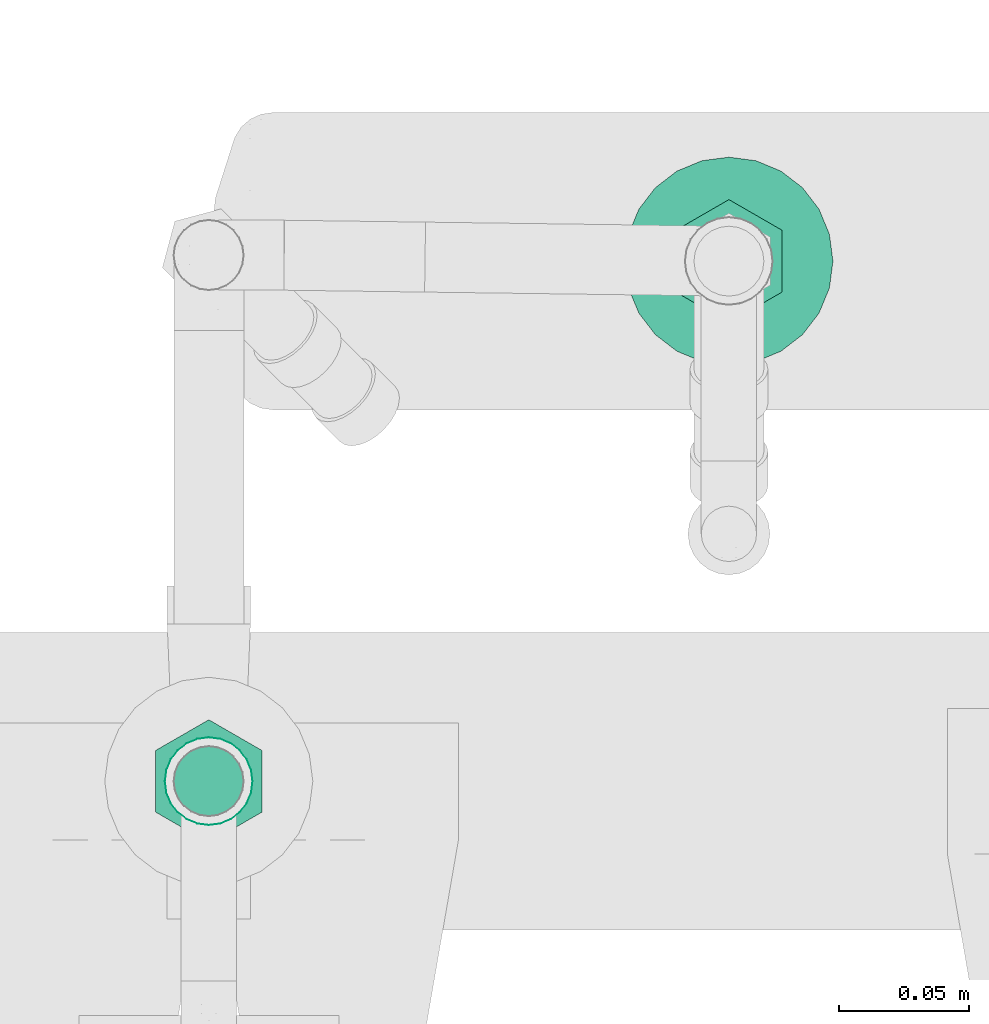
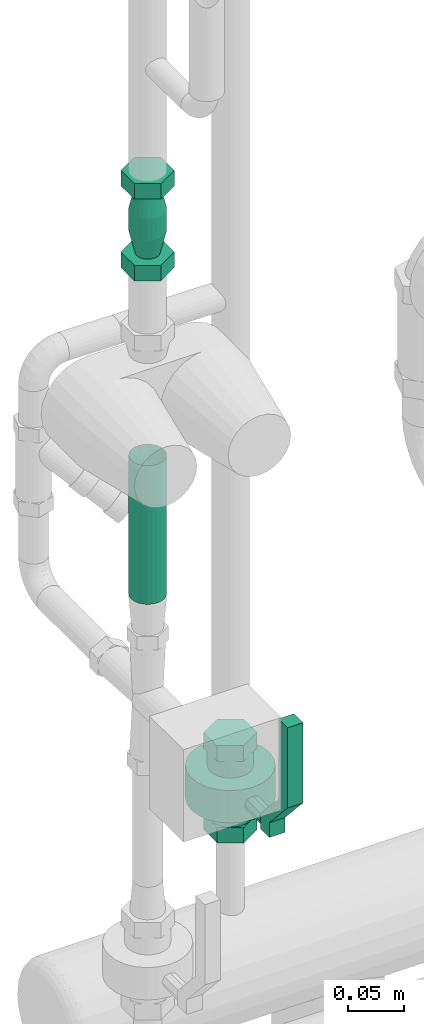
# One storey, part 83 of 374: 2 flow controllers, 1 flow segment.
"""IFC2X3 building model written with IfcOpenShell, lengths in metres."""

from ifc_helpers import new_model, si_unit, direction, origin, place, context, subcontext, project, spatial, open_shell, surface_model, source, transform, mapped, element, save


model = new_model("IFC2X3")

# Units and contexts
model_context = context("Model", 3, precision=1e-05, world=origin(), true_north=direction((-0.4480736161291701, 0.8939966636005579)))
body_context = subcontext(model_context, "Body", "Model", "MODEL_VIEW")
ifc_project = project(units=[si_unit("LENGTHUNIT", "METRE"), si_unit("AREAUNIT", "SQUARE_METRE"), si_unit("VOLUMEUNIT", "CUBIC_METRE"), si_unit("PLANEANGLEUNIT", "RADIAN"), si_unit("THERMODYNAMICTEMPERATUREUNIT", "KELVIN"), si_unit("MASSUNIT", "GRAM", prefix="KILO"), si_unit("TIMEUNIT", "SECOND")], contexts=[model_context])

# Site, building, storey
site_placement = place(None, origin())
site = spatial("IfcSite", under=ifc_project, at=site_placement, Name="Site 1", CompositionType="ELEMENT")
building_placement = place(site_placement, origin())
building = spatial("IfcBuilding", under=site, at=building_placement, Name="Undefined", CompositionType="ELEMENT")
storey_placement = place(building_placement, origin())
storey = spatial("IfcBuildingStorey", under=building, at=storey_placement, Name="Rez de chauss\x8ee", CompositionType="ELEMENT", Elevation=0.0)

# Flow controller
shared_shape_1 = source(origin(), body_context, "Body", "SurfaceModel", [
    surface_model("IfcFaceBasedSurfaceModel", [(0.0, 0.0, 0.0), (0.016000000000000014, 0.0, 0.0), (0.016000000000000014, 0.015999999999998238, 0.0), (0.0, 0.015999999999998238, 0.0), (0.016000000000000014, 0.0, 0.016000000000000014), (0.016000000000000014, 0.015999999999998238, 0.016000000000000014), (0.0, 0.0, 0.016000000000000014), (0.0, 0.015999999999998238, 0.016000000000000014), (-0.03533333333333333, 0.0, 0.04800000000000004), (-0.03533333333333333, 0.015999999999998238, 0.04800000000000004), (-0.122, 0.0, 0.04800000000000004), (-0.122, 0.015999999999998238, 0.04800000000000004), (-0.122, 0.0, 0.03200000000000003), (-0.122, 0.015999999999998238, 0.03200000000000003), (-0.03533333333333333, 0.0, 0.03200000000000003), (-0.03533333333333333, 0.015999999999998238, 0.03200000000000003), (0.060500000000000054, 0.02850000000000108, -0.0788356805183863), (0.060500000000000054, 0.02850000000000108, -0.05516431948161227), (0.04370000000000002, 0.02850000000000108, -0.05516431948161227), (0.04370000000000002, 0.02850000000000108, -0.0788356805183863), (0.060500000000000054, 0.008000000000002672, -0.0906713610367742), (0.04370000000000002, 0.008000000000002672, -0.0906713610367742), (0.060500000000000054, -0.012500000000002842, -0.0788356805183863), (0.04370000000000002, -0.012500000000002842, -0.0788356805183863), (0.060500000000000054, -0.012500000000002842, -0.05516431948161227), (0.04370000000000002, -0.012500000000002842, -0.05516431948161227), (0.060500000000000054, 0.008000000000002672, -0.043328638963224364), (0.04370000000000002, 0.008000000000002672, -0.043328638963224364), (0.04370000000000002, -0.012500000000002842, -0.06700000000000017), (0.04370000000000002, -0.011801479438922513, -0.06169420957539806), (0.025500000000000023, -0.011801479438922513, -0.06169420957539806), (0.025500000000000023, -0.012500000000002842, -0.06700000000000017), (0.04370000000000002, -0.009753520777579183, -0.05674999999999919), (0.025500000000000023, -0.009753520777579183, -0.05674999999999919), (0.04370000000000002, -0.006495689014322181, -0.05250431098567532), (0.025500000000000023, -0.006495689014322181, -0.05250431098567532), (0.04370000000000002, -0.002250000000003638, -0.049246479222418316), (0.025500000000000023, -0.002250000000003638, -0.049246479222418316), (0.04370000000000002, 0.0026942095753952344, -0.04719852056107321), (0.025500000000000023, 0.0026942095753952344, -0.04719852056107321), (0.04370000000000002, 0.008000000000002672, -0.046499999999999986), (0.025500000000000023, 0.008000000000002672, -0.046499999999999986), (0.04370000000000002, 0.013305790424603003, -0.04719852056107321), (0.025500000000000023, 0.013305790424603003, -0.04719852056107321), (0.04370000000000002, 0.018250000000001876, -0.049246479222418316), (0.025500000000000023, 0.018250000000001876, -0.049246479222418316), (0.04370000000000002, 0.02249568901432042, -0.05250431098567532), (0.025500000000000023, 0.02249568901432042, -0.05250431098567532), (0.04370000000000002, 0.02575352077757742, -0.05674999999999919), (0.025500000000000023, 0.02575352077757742, -0.05674999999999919), (0.04370000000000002, 0.02780147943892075, -0.06169420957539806), (0.025500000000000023, 0.02780147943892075, -0.06169420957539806), (0.04370000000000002, 0.02850000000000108, -0.06700000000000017), (0.025500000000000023, 0.02850000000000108, -0.06700000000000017), (0.04370000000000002, 0.02780147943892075, -0.0723057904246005), (0.025500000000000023, 0.02780147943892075, -0.0723057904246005), (0.04370000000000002, 0.02575352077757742, -0.07724999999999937), (0.025500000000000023, 0.02575352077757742, -0.07724999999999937), (0.04370000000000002, 0.02249568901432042, -0.08149568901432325), (0.025500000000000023, 0.02249568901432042, -0.08149568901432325), (0.04370000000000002, 0.018250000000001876, -0.08475352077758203), (0.025500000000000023, 0.018250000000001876, -0.08475352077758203), (0.04370000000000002, 0.013305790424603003, -0.08680147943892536), (0.025500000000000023, 0.013305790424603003, -0.08680147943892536), (0.04370000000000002, 0.008000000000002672, -0.08749999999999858), (0.025500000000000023, 0.008000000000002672, -0.08749999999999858), (0.04370000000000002, 0.0026942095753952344, -0.08680147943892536), (0.025500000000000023, 0.0026942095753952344, -0.08680147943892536), (0.04370000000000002, -0.002250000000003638, -0.08475352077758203), (0.025500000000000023, -0.002250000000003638, -0.08475352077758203), (0.04370000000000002, -0.006495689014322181, -0.08149568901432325), (0.025500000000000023, -0.006495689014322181, -0.08149568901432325), (0.04370000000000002, -0.009753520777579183, -0.07724999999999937), (0.025500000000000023, -0.009753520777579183, -0.07724999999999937), (0.04370000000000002, -0.011801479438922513, -0.0723057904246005), (0.025500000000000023, -0.011801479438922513, -0.0723057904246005), (0.025500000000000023, -0.03200000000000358, -0.06700000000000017), (0.025500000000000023, -0.030637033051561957, -0.05664723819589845), (-0.009499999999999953, -0.030637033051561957, -0.05664723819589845), (-0.009499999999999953, -0.03200000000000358, -0.06700000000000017), (0.025500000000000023, -0.02664101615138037, -0.04699999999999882), (-0.009499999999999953, -0.02664101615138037, -0.04699999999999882), (0.025500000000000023, -0.020284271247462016, -0.03871572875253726), (-0.009499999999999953, -0.020284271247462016, -0.03871572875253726), (0.025500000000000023, -0.012000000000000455, -0.03235898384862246), (-0.009499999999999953, -0.012000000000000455, -0.03235898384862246), (0.025500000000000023, -0.002352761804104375, -0.028362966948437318), (-0.009499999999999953, -0.002352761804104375, -0.028362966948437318), (0.025500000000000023, 0.008000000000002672, -0.026999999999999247), (-0.009499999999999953, 0.008000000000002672, -0.026999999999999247), (0.025500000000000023, 0.018352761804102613, -0.028362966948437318), (-0.009499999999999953, 0.018352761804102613, -0.028362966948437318), (0.025500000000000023, 0.027999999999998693, -0.03235898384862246), (-0.009499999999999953, 0.027999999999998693, -0.03235898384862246), (0.025500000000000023, 0.036284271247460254, -0.03871572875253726), (-0.009499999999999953, 0.036284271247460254, -0.03871572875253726), (0.025500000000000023, 0.04264101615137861, -0.04699999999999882), (-0.009499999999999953, 0.04264101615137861, -0.04699999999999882), (0.025500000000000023, 0.046637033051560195, -0.05664723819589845), (-0.009499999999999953, 0.046637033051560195, -0.05664723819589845), (0.025500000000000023, 0.04800000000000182, -0.06700000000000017), (-0.009499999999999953, 0.04800000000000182, -0.06700000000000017), (0.025500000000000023, 0.046637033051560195, -0.07735276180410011), (-0.009499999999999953, 0.046637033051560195, -0.07735276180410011), (0.025500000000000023, 0.04264101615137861, -0.08699999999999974), (-0.009499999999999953, 0.04264101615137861, -0.08699999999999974), (0.025500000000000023, 0.036284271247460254, -0.0952842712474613), (-0.009499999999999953, 0.036284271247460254, -0.0952842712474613), (0.025500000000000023, 0.027999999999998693, -0.10164101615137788), (-0.009499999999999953, 0.027999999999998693, -0.10164101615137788), (0.025500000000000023, 0.018352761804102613, -0.10563703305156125), (-0.009499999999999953, 0.018352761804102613, -0.10563703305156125), (0.025500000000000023, 0.008000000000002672, -0.10699999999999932), (-0.009499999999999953, 0.008000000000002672, -0.10699999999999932), (0.025500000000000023, -0.002352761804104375, -0.10563703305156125), (-0.009499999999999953, -0.002352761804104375, -0.10563703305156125), (0.025500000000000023, -0.012000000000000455, -0.10164101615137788), (-0.009499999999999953, -0.012000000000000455, -0.10164101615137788), (0.025500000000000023, -0.020284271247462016, -0.0952842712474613), (-0.009499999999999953, -0.020284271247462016, -0.0952842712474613), (0.025500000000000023, -0.02664101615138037, -0.08699999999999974), (-0.009499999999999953, -0.02664101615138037, -0.08699999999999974), (0.025500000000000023, -0.030637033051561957, -0.07735276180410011), (-0.009499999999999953, -0.030637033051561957, -0.07735276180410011), (0.025500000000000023, 0.008000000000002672, -0.06700000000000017), (-0.009499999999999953, 0.008000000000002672, -0.06700000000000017), (-0.009499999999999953, -0.012500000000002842, -0.06700000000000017), (-0.009499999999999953, -0.011801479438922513, -0.06169420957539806), (-0.027699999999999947, -0.011801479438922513, -0.06169420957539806), (-0.027699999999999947, -0.012500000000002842, -0.06700000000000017), (-0.009499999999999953, -0.009753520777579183, -0.05674999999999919), (-0.027699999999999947, -0.009753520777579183, -0.05674999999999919), (-0.009499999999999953, -0.006495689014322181, -0.05250431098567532), (-0.027699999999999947, -0.006495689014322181, -0.05250431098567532), (-0.009499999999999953, -0.002250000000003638, -0.049246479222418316), (-0.027699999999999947, -0.002250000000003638, -0.049246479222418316), (-0.009499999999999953, 0.0026942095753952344, -0.04719852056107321), (-0.027699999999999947, 0.0026942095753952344, -0.04719852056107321), (-0.009499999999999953, 0.008000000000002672, -0.046499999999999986), (-0.027699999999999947, 0.008000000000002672, -0.046499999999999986), (-0.009499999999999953, 0.013305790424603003, -0.04719852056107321), (-0.027699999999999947, 0.013305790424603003, -0.04719852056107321), (-0.009499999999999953, 0.018250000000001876, -0.049246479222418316), (-0.027699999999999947, 0.018250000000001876, -0.049246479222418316), (-0.009499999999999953, 0.02249568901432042, -0.05250431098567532), (-0.027699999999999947, 0.02249568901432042, -0.05250431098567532), (-0.009499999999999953, 0.02575352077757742, -0.05674999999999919), (-0.027699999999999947, 0.02575352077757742, -0.05674999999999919), (-0.009499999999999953, 0.02780147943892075, -0.06169420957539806), (-0.027699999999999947, 0.02780147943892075, -0.06169420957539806), (-0.009499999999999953, 0.02850000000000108, -0.06700000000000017), (-0.027699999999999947, 0.02850000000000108, -0.06700000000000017), (-0.009499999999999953, 0.02780147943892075, -0.0723057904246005), (-0.027699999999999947, 0.02780147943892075, -0.0723057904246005), (-0.009499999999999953, 0.02575352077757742, -0.07724999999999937), (-0.027699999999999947, 0.02575352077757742, -0.07724999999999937), (-0.009499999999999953, 0.02249568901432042, -0.08149568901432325), (-0.027699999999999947, 0.02249568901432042, -0.08149568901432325), (-0.009499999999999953, 0.018250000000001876, -0.08475352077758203), (-0.027699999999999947, 0.018250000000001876, -0.08475352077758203), (-0.009499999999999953, 0.013305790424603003, -0.08680147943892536), (-0.027699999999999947, 0.013305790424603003, -0.08680147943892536), (-0.009499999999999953, 0.008000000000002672, -0.08749999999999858), (-0.027699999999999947, 0.008000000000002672, -0.08749999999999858), (-0.009499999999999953, 0.0026942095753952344, -0.08680147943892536), (-0.027699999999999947, 0.0026942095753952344, -0.08680147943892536), (-0.009499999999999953, -0.002250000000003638, -0.08475352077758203), (-0.027699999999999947, -0.002250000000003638, -0.08475352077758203), (-0.009499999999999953, -0.006495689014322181, -0.08149568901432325), (-0.027699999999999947, -0.006495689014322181, -0.08149568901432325), (-0.009499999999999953, -0.009753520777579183, -0.07724999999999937), (-0.027699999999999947, -0.009753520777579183, -0.07724999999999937), (-0.009499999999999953, -0.011801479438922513, -0.0723057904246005), (-0.027699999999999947, -0.011801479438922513, -0.0723057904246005), (-0.027699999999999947, 0.02850000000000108, -0.0788356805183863), (-0.027699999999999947, 0.02850000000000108, -0.05516431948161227), (-0.04449999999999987, 0.02850000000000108, -0.05516431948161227), (-0.04449999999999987, 0.02850000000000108, -0.0788356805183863), (-0.027699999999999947, 0.008000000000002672, -0.0906713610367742), (-0.04449999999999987, 0.008000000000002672, -0.0906713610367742), (-0.027699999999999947, -0.012500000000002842, -0.0788356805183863), (-0.04449999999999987, -0.012500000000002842, -0.0788356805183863), (-0.027699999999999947, -0.012500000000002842, -0.05516431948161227), (-0.04449999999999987, -0.012500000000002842, -0.05516431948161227), (-0.027699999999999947, 0.008000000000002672, -0.043328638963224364), (-0.04449999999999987, 0.008000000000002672, -0.043328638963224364), (0.0, 0.008000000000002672, -0.06700000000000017), (0.002343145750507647, 0.002343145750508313, -0.06700000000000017), (0.002343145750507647, 0.002343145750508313, 0.0), (0.0, 0.008, 0.0), (0.008000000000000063, 0.0, -0.06700000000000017), (0.008000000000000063, 0.0, 0.0), (0.013656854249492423, 0.002343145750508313, -0.06700000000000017), (0.013656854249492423, 0.002343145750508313, 0.0), (0.016000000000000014, 0.008000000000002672, -0.06700000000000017), (0.016000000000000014, 0.008000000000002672, 0.0), (0.013656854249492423, 0.013656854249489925, -0.06700000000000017), (0.013656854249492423, 0.013656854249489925, 0.0), (0.008000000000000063, 0.015999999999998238, -0.06700000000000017), (0.008000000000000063, 0.015999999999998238, 0.0), (0.002343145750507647, 0.013656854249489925, -0.06700000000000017), (0.002343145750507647, 0.013656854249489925, 0.0)], [open_shell([[[0, 1, 2, 3]], [[1, 4, 5, 2]], [[4, 6, 7, 5]], [[6, 8, 9, 7]], [[8, 10, 11, 9]], [[10, 12, 13, 11]], [[12, 14, 15, 13]], [[14, 0, 3, 15]], [[3, 7, 2]], [[7, 3, 9]], [[15, 9, 3]], [[9, 15, 11]], [[13, 11, 15]], [[5, 2, 7]], [[1, 6, 0]], [[8, 0, 6]], [[0, 8, 14]], [[10, 14, 8]], [[14, 10, 12]], [[6, 1, 4]], [[16, 17, 18, 19]], [[20, 16, 19, 21]], [[22, 20, 21, 23]], [[24, 22, 23, 25]], [[26, 24, 25, 27]], [[17, 26, 27, 18]], [[17, 16, 20]], [[17, 20, 22]], [[17, 22, 24]], [[17, 24, 26]], [[18, 21, 19]], [[18, 23, 21]], [[18, 25, 23]], [[18, 27, 25]], [[28, 29, 30, 31]], [[29, 32, 33, 30]], [[32, 34, 35, 33]], [[34, 36, 37, 35]], [[36, 38, 39, 37]], [[38, 40, 41, 39]], [[40, 42, 43, 41]], [[42, 44, 45, 43]], [[44, 46, 47, 45]], [[46, 48, 49, 47]], [[48, 50, 51, 49]], [[50, 52, 53, 51]], [[52, 54, 55, 53]], [[54, 56, 57, 55]], [[56, 58, 59, 57]], [[58, 60, 61, 59]], [[60, 62, 63, 61]], [[62, 64, 65, 63]], [[64, 66, 67, 65]], [[66, 68, 69, 67]], [[68, 70, 71, 69]], [[70, 72, 73, 71]], [[72, 74, 75, 73]], [[74, 28, 31, 75]], [[76, 77, 78, 79]], [[77, 80, 81, 78]], [[80, 82, 83, 81]], [[82, 84, 85, 83]], [[84, 86, 87, 85]], [[86, 88, 89, 87]], [[88, 90, 91, 89]], [[90, 92, 93, 91]], [[92, 94, 95, 93]], [[94, 96, 97, 95]], [[96, 98, 99, 97]], [[98, 100, 101, 99]], [[100, 102, 103, 101]], [[102, 104, 105, 103]], [[104, 106, 107, 105]], [[106, 108, 109, 107]], [[108, 110, 111, 109]], [[110, 112, 113, 111]], [[112, 114, 115, 113]], [[114, 116, 117, 115]], [[116, 118, 119, 117]], [[118, 120, 121, 119]], [[120, 122, 123, 121]], [[122, 76, 79, 123]], [[124, 77, 76]], [[124, 80, 77]], [[124, 82, 80]], [[124, 84, 82]], [[124, 86, 84]], [[124, 88, 86]], [[124, 90, 88]], [[124, 92, 90]], [[124, 94, 92]], [[124, 96, 94]], [[124, 98, 96]], [[124, 100, 98]], [[124, 102, 100]], [[124, 104, 102]], [[124, 106, 104]], [[124, 108, 106]], [[124, 110, 108]], [[124, 112, 110]], [[124, 114, 112]], [[124, 116, 114]], [[124, 118, 116]], [[124, 120, 118]], [[124, 122, 120]], [[124, 76, 122]], [[125, 123, 79]], [[125, 121, 123]], [[125, 119, 121]], [[125, 117, 119]], [[125, 115, 117]], [[125, 113, 115]], [[125, 111, 113]], [[125, 109, 111]], [[125, 107, 109]], [[125, 105, 107]], [[125, 103, 105]], [[125, 101, 103]], [[125, 99, 101]], [[125, 97, 99]], [[125, 95, 97]], [[125, 93, 95]], [[125, 91, 93]], [[125, 89, 91]], [[125, 87, 89]], [[125, 85, 87]], [[125, 83, 85]], [[125, 81, 83]], [[125, 78, 81]], [[125, 79, 78]], [[126, 127, 128, 129]], [[127, 130, 131, 128]], [[130, 132, 133, 131]], [[132, 134, 135, 133]], [[134, 136, 137, 135]], [[136, 138, 139, 137]], [[138, 140, 141, 139]], [[140, 142, 143, 141]], [[142, 144, 145, 143]], [[144, 146, 147, 145]], [[146, 148, 149, 147]], [[148, 150, 151, 149]], [[150, 152, 153, 151]], [[152, 154, 155, 153]], [[154, 156, 157, 155]], [[156, 158, 159, 157]], [[158, 160, 161, 159]], [[160, 162, 163, 161]], [[162, 164, 165, 163]], [[164, 166, 167, 165]], [[166, 168, 169, 167]], [[168, 170, 171, 169]], [[170, 172, 173, 171]], [[172, 126, 129, 173]], [[174, 175, 176, 177]], [[178, 174, 177, 179]], [[180, 178, 179, 181]], [[182, 180, 181, 183]], [[184, 182, 183, 185]], [[175, 184, 185, 176]], [[175, 174, 178]], [[175, 178, 180]], [[175, 180, 182]], [[175, 182, 184]], [[176, 179, 177]], [[176, 181, 179]], [[176, 183, 181]], [[176, 185, 183]], [[186, 187, 188, 189]], [[187, 190, 191, 188]], [[190, 192, 193, 191]], [[192, 194, 195, 193]], [[194, 196, 197, 195]], [[196, 198, 199, 197]], [[198, 200, 201, 199]], [[200, 186, 189, 201]]])]),
])
flow_controller_1_placement = place(storey_placement, origin())
element("IfcFlowController", 1, at=flow_controller_1_placement, inside=storey, Name="Robinet à boisseau sphérique", ObjectType="Robinet à boisseau sphérique", context=body_context, shape_type="MappedRepresentation", body=[
    mapped(shared_shape_1, transform((52.24956201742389, 10.85103704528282, 0.5008500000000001), x_axis=(0.0, 0.0, -1.0), y_axis=(1.0, 0.0, 0.0), z_axis=(0.0, -1.0, 0.0))),
])

# Flow segment
shared_shape_2 = source(origin(), body_context, "Body", "SurfaceModel", [
    surface_model("IfcFaceBasedSurfaceModel", [(0.0, 0.004398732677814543, 0.0), (0.0, 0.0, 0.0), (0.14994874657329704, 0.0, 7.105427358e-15), (0.14994874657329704, 0.004398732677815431, 0.0), (0.0, -0.004248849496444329, -0.00113847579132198), (0.14994874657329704, -0.004248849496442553, -0.0011384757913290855), (0.0, -0.008058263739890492, -0.003337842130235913), (0.14994874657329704, -0.008058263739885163, -0.0033378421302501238), (0.0, -0.01116863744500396, -0.0064482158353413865), (0.14994874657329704, -0.011168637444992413, -0.006448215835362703), (0.0, -0.013368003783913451, -0.010257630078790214), (0.14994874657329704, -0.013368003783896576, -0.01025763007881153), (0.0, -0.014506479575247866, -0.014506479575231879), (0.14994874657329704, -0.014506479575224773, -0.0145064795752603), (0.0, -0.01450647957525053, -0.01890521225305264), (0.14994874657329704, -0.014506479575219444, -0.018905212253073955), (0.0, -0.013368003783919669, -0.023154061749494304), (0.14994874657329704, -0.013368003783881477, -0.023154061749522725), (0.0, -0.011168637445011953, -0.02696347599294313), (0.14994874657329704, -0.011168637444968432, -0.026963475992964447), (0.0, -0.008058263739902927, -0.03007384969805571), (0.14994874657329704, -0.008058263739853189, -0.030073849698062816), (0.0, -0.004248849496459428, -0.03227321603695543), (0.14994874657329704, -0.004248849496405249, -0.03227321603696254), (0.0, -1.5099033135e-14, -0.03341169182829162), (0.14994874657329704, 4.0856207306e-14, -0.03341169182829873), (0.0, 0.00439873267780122, -0.03341169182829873), (0.14994874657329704, 0.004398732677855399, -0.03341169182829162), (0.0, 0.008647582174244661, -0.03227321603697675), (0.14994874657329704, 0.008647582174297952, -0.03227321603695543), (0.0, 0.012456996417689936, -0.030073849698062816), (0.14994874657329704, 0.012456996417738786, -0.0300738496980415), (0.0, 0.01556737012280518, -0.026963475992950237), (0.14994874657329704, 0.015567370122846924, -0.026963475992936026), (0.0, 0.017766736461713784, -0.023154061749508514), (0.14994874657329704, 0.017766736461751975, -0.023154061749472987), (0.0, 0.018905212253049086, -0.01890521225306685), (0.14994874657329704, 0.018905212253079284, -0.018905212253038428), (0.0, 0.018905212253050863, -0.01450647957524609), (0.14994874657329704, 0.018905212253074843, -0.014506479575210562), (0.0, 0.01776673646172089, -0.01025763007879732), (0.14994874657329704, 0.017766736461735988, -0.010257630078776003), (0.0, 0.015567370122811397, -0.006448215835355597), (0.14994874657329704, 0.015567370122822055, -0.006448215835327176), (0.0, 0.012456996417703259, -0.0033378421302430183), (0.14994874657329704, 0.012456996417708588, -0.003337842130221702), (0.0, 0.00864758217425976, -0.0011384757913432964), (0.14994874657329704, 0.008647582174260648, -0.00113847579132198)], [open_shell([[[0, 1, 2, 3]], [[1, 4, 5, 2]], [[4, 6, 7, 5]], [[6, 8, 9, 7]], [[8, 10, 11, 9]], [[10, 12, 13, 11]], [[12, 14, 15, 13]], [[14, 16, 17, 15]], [[16, 18, 19, 17]], [[18, 20, 21, 19]], [[20, 22, 23, 21]], [[22, 24, 25, 23]], [[24, 26, 27, 25]], [[26, 28, 29, 27]], [[28, 30, 31, 29]], [[30, 32, 33, 31]], [[32, 34, 35, 33]], [[34, 36, 37, 35]], [[36, 38, 39, 37]], [[38, 40, 41, 39]], [[40, 42, 43, 41]], [[42, 44, 45, 43]], [[44, 46, 47, 45]], [[46, 0, 3, 47]]])]),
])
flow_segment_placement = place(storey_placement, origin())
element("IfcFlowSegment", 2, at=flow_segment_placement, inside=storey, Name="Tube acier d'après DIN 2448", ObjectType="Tube acier d'après DIN 2448", context=body_context, shape_type="MappedRepresentation", body=[
    mapped(shared_shape_2, transform((52.04128616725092, 10.713675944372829, 0.8868512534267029), x_axis=(0.0, 0.0, 1.0), y_axis=(-0.13052619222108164, 0.9914448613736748, 0.0), z_axis=(-0.9914448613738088, -0.13052619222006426, 0.0))),
])

# Flow controller
shared_shape_3 = source(origin(), body_context, "Body", "SurfaceModel", [
    surface_model("IfcFaceBasedSurfaceModel", [(0.0, 0.0, 0.0), (0.02367136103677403, 0.0, 0.0), (0.02367136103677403, 0.016799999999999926, 0.0), (0.0, 0.016799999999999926, 0.0), (-0.011835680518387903, 0.0, 0.02049999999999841), (-0.011835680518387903, 0.016799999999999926, 0.02049999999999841), (0.0, 0.0, 0.04100000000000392), (0.0, 0.016799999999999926, 0.04100000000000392), (0.02367136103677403, 0.0, 0.04100000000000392), (0.02367136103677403, 0.016799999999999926, 0.04100000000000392), (0.03550704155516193, 0.0, 0.02049999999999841), (0.03550704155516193, 0.016799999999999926, 0.02049999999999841), (0.0006023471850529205, 0.016799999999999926, 0.02049999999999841), (0.0009851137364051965, 0.016799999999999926, 0.023407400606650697), (-0.0044401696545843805, 0.04059999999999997, 0.024861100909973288), (-0.005014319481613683, 0.04059999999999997, 0.020499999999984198), (0.0021073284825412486, 0.016799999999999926, 0.026116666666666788), (-0.0027568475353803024, 0.04059999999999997, 0.028924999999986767), (0.003892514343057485, 0.016799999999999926, 0.028443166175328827), (-7.906874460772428e-05, 0.04059999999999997, 0.03241474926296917), (0.006219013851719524, 0.016799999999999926, 0.030228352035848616), (0.0034106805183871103, 0.04059999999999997, 0.035092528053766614), (0.008928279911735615, 0.016799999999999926, 0.031350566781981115), (0.007474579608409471, 0.04059999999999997, 0.03677585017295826), (0.011835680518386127, 0.016799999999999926, 0.03173333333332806), (0.011835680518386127, 0.04059999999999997, 0.037349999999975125), (0.014743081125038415, 0.016799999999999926, 0.031350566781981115), (0.01619678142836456, 0.04059999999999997, 0.03677585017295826), (0.017452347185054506, 0.016799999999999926, 0.030228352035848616), (0.02026068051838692, 0.04059999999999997, 0.035092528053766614), (0.019778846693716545, 0.016799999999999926, 0.028443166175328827), (0.023750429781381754, 0.04059999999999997, 0.03241474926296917), (0.02156403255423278, 0.016799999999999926, 0.026116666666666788), (0.026428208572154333, 0.04059999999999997, 0.028924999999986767), (0.022686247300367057, 0.016799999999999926, 0.023407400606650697), (0.02811153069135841, 0.04059999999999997, 0.024861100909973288), (0.02306901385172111, 0.016799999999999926, 0.02049999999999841), (0.028685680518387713, 0.04059999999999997, 0.020499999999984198), (0.022686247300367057, 0.016799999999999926, 0.017592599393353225), (0.02811153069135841, 0.04059999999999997, 0.016138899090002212), (0.02156403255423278, 0.016799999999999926, 0.014883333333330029), (0.026428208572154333, 0.04059999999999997, 0.012074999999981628), (0.019778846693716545, 0.016799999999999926, 0.012556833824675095), (0.023750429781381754, 0.04059999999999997, 0.008585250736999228), (0.017452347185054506, 0.016799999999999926, 0.010771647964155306), (0.02026068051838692, 0.04059999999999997, 0.0059074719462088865), (0.014743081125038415, 0.016799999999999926, 0.009649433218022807), (0.01619678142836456, 0.04059999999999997, 0.004224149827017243), (0.011835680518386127, 0.016799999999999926, 0.009266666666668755), (0.011835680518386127, 0.04059999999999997, 0.0036499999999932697), (0.008928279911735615, 0.016799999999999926, 0.009649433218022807), (0.007474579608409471, 0.04059999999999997, 0.004224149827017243), (0.006219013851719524, 0.016799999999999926, 0.010771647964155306), (0.0034106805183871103, 0.04059999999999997, 0.0059074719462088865), (0.003892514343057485, 0.016799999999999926, 0.012556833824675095), (-7.906874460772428e-05, 0.04059999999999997, 0.008585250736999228), (0.0021073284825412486, 0.016799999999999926, 0.014883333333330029), (-0.0027568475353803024, 0.04059999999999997, 0.012074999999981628), (0.0009851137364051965, 0.016799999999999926, 0.017592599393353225), (-0.0044401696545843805, 0.04059999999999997, 0.016138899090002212), (0.01619678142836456, 0.06440000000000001, 0.03677585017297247), (0.011835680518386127, 0.06440000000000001, 0.03734999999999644), (0.02026068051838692, 0.06440000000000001, 0.03509252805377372), (0.023750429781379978, 0.06440000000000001, 0.03241474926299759), (0.02642820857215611, 0.06440000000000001, 0.028925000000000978), (0.02811153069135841, 0.06440000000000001, 0.024861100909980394), (0.028685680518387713, 0.06440000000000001, 0.02049999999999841), (0.02811153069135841, 0.06440000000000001, 0.01613889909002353), (0.02642820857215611, 0.06440000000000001, 0.012074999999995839), (0.023750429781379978, 0.06440000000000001, 0.008585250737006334), (0.02026068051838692, 0.06440000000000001, 0.005907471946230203), (0.01619678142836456, 0.06440000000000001, 0.004224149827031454), (0.011835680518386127, 0.06440000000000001, 0.003650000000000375), (0.007474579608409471, 0.06440000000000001, 0.004224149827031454), (0.0034106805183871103, 0.06440000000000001, 0.005907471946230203), (-7.906874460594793e-05, 0.06440000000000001, 0.008585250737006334), (-0.0027568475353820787, 0.06440000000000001, 0.012074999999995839), (-0.0044401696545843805, 0.06440000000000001, 0.01613889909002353), (-0.005014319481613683, 0.06440000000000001, 0.02049999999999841), (-0.0044401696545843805, 0.06440000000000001, 0.024861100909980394), (-0.0027568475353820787, 0.06440000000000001, 0.028925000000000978), (-7.906874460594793e-05, 0.06440000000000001, 0.03241474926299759), (0.0034106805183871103, 0.06440000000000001, 0.03509252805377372), (0.007474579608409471, 0.06440000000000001, 0.03677585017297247), (0.0009851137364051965, 0.08820000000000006, 0.023407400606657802), (0.0006023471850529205, 0.08820000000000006, 0.020500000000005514), (0.0021073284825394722, 0.08820000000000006, 0.026116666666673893), (0.003892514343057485, 0.08820000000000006, 0.028443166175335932), (0.006219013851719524, 0.08820000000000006, 0.03022835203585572), (0.008928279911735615, 0.08820000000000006, 0.03135056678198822), (0.011835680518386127, 0.08820000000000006, 0.03173333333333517), (0.014743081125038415, 0.08820000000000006, 0.03135056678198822), (0.01745234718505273, 0.08820000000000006, 0.03022835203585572), (0.01977884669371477, 0.08820000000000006, 0.028443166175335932), (0.02156403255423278, 0.08820000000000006, 0.026116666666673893), (0.022686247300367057, 0.08820000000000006, 0.023407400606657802), (0.02306901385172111, 0.08820000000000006, 0.020500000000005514), (0.022686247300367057, 0.08820000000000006, 0.01759259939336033), (0.02156403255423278, 0.08820000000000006, 0.014883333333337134), (0.01977884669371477, 0.08820000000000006, 0.012556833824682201), (0.01745234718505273, 0.08820000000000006, 0.010771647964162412), (0.014743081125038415, 0.08820000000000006, 0.009649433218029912), (0.011835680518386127, 0.08820000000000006, 0.00926666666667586), (0.008928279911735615, 0.08820000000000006, 0.009649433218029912), (0.006219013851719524, 0.08820000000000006, 0.010771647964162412), (0.003892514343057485, 0.08820000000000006, 0.012556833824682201), (0.0021073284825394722, 0.08820000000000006, 0.014883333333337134), (0.0009851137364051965, 0.08820000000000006, 0.01759259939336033), (0.0, 0.08820000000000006, 0.0), (0.02367136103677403, 0.08820000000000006, 0.0), (0.02367136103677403, 0.10499999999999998, 0.0), (0.0, 0.10499999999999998, 0.0), (-0.011835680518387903, 0.08820000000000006, 0.02049999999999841), (-0.011835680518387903, 0.10499999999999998, 0.02049999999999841), (0.0, 0.08820000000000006, 0.04100000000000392), (0.0, 0.10499999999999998, 0.04100000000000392), (0.02367136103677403, 0.08820000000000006, 0.04100000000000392), (0.02367136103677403, 0.10499999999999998, 0.04100000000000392), (0.03550704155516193, 0.08820000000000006, 0.02049999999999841), (0.03550704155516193, 0.10499999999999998, 0.02049999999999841)], [open_shell([[[0, 1, 2, 3]], [[4, 0, 3, 5]], [[6, 4, 5, 7]], [[8, 6, 7, 9]], [[10, 8, 9, 11]], [[1, 10, 11, 2]], [[1, 0, 4]], [[1, 4, 6]], [[1, 6, 8]], [[1, 8, 10]], [[2, 5, 3]], [[2, 7, 5]], [[2, 9, 7]], [[2, 11, 9]], [[12, 13, 14, 15]], [[13, 16, 17, 14]], [[16, 18, 19, 17]], [[18, 20, 21, 19]], [[20, 22, 23, 21]], [[22, 24, 25, 23]], [[24, 26, 27, 25]], [[26, 28, 29, 27]], [[28, 30, 31, 29]], [[30, 32, 33, 31]], [[32, 34, 35, 33]], [[34, 36, 37, 35]], [[36, 38, 39, 37]], [[38, 40, 41, 39]], [[40, 42, 43, 41]], [[42, 44, 45, 43]], [[44, 46, 47, 45]], [[46, 48, 49, 47]], [[48, 50, 51, 49]], [[50, 52, 53, 51]], [[52, 54, 55, 53]], [[54, 56, 57, 55]], [[56, 58, 59, 57]], [[58, 12, 15, 59]], [[25, 27, 60, 61]], [[27, 29, 62, 60]], [[29, 31, 63, 62]], [[31, 33, 64, 63]], [[33, 35, 65, 64]], [[35, 37, 66, 65]], [[37, 39, 67, 66]], [[39, 41, 68, 67]], [[41, 43, 69, 68]], [[43, 45, 70, 69]], [[45, 47, 71, 70]], [[47, 49, 72, 71]], [[49, 51, 73, 72]], [[51, 53, 74, 73]], [[53, 55, 75, 74]], [[55, 57, 76, 75]], [[57, 59, 77, 76]], [[59, 15, 78, 77]], [[15, 14, 79, 78]], [[14, 17, 80, 79]], [[17, 19, 81, 80]], [[19, 21, 82, 81]], [[21, 23, 83, 82]], [[23, 25, 61, 83]], [[78, 79, 84, 85]], [[79, 80, 86, 84]], [[80, 81, 87, 86]], [[81, 82, 88, 87]], [[82, 83, 89, 88]], [[83, 61, 90, 89]], [[61, 60, 91, 90]], [[60, 62, 92, 91]], [[62, 63, 93, 92]], [[63, 64, 94, 93]], [[64, 65, 95, 94]], [[65, 66, 96, 95]], [[66, 67, 97, 96]], [[67, 68, 98, 97]], [[68, 69, 99, 98]], [[69, 70, 100, 99]], [[70, 71, 101, 100]], [[71, 72, 102, 101]], [[72, 73, 103, 102]], [[73, 74, 104, 103]], [[74, 75, 105, 104]], [[75, 76, 106, 105]], [[76, 77, 107, 106]], [[77, 78, 85, 107]], [[108, 109, 110, 111]], [[112, 108, 111, 113]], [[114, 112, 113, 115]], [[116, 114, 115, 117]], [[118, 116, 117, 119]], [[109, 118, 119, 110]], [[109, 108, 112]], [[109, 112, 114]], [[109, 114, 116]], [[109, 116, 118]], [[110, 113, 111]], [[110, 115, 113]], [[110, 117, 115]], [[110, 119, 117]]])]),
])
flow_controller_2_placement = place(storey_placement, origin())
element("IfcFlowController", 3, at=flow_controller_2_placement, inside=storey, Name="Clapet de retenue", ObjectType="Clapet de retenue", context=body_context, shape_type="MappedRepresentation", body=[
    mapped(shared_shape_3, transform((52.07806201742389, 10.729872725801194, 1.2393475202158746), x_axis=(0.0, -1.0, 0.0), y_axis=(0.0, 0.0, 1.0), z_axis=(-1.0, 0.0, 0.0))),
])

save(model, "model.ifc")
